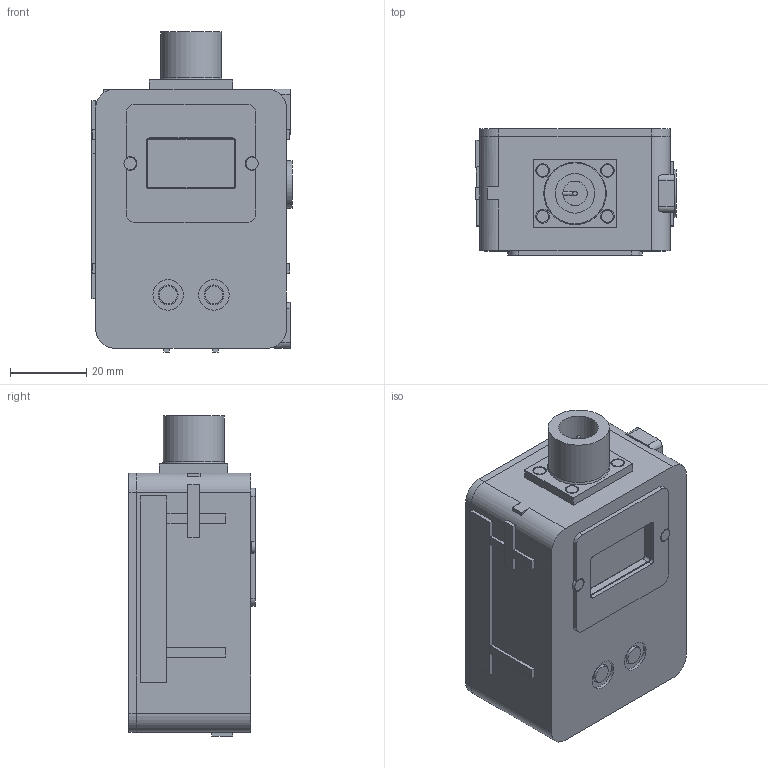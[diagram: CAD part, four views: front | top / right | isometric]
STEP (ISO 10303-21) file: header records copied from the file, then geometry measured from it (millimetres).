
FILE_DESCRIPTION(('Open CASCADE Model'),'2;1');
FILE_NAME('AETHER_WATCH_V1_ASSEMBLED','2026-10-06T17:21:01',('Author'),( 'Open CASCADE'),'Open CASCADE STEP processor 7.9','build123d', 'Unknown');
FILE_SCHEMA(('AUTOMOTIVE_DESIGN { 1 0 10303 214 1 1 1 1 }'));
Length unit declared in the file: millimetre
Products named in the file (41): AETHER_WATCH_V1_ASSEMBLED; main_front_housing; hollow_antenna_housing_placeholder; antenna_m2_screw_1; antenna_m2_screw_2; antenna_m2_screw_3; antenna_m2_screw_4; raised_oled_protective_bezel; bezel_m2_screw_1; bezel_m2_screw_2; oled_i2c_pcb_27x27; oled_active_area_23x13; oled_status_pixel_bar; green_system_led_5mm; red_alert_led_5mm; esp32c3_dev_board_pcb_28x52; esp32c3_radio_module_envelope; esp32c3_mcu_package; board_power_regulator_envelope; usb_c_receptacle_envelope; battery_input_header_envelope; boot_button_envelope; reset_button_envelope; esp_mount_m2_screw_1; esp_mount_m2_screw_2; esp_mount_m2_screw_3; esp_mount_m2_screw_4; lipo_3v7_30x40x6_envelope; 12mm_rear_buzzer_envelope; 6mm_sos_tactile_switch_envelope; sos_switch_actuator; red_sos_button_plunger; antenna_coax_placeholder; battery_positive_lead; battery_negative_lead; oled_signal_ribbon_placeholder; removable_rear_cover; rear_m2_5_screw_1; rear_m2_5_screw_2; rear_m2_5_screw_3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
Assembly tree (40 placements, depth 2):
  AETHER_WATCH_V1_ASSEMBLED
    main_front_housing
    hollow_antenna_housing_placeholder
    antenna_m2_screw_1
    antenna_m2_screw_2
    antenna_m2_screw_3
    antenna_m2_screw_4
    raised_oled_protective_bezel
    bezel_m2_screw_1
    bezel_m2_screw_2
    oled_i2c_pcb_27x27
    oled_active_area_23x13
    oled_status_pixel_bar
    green_system_led_5mm
    red_alert_led_5mm
    esp32c3_dev_board_pcb_28x52
    esp32c3_radio_module_envelope
    esp32c3_mcu_package
    board_power_regulator_envelope
    usb_c_receptacle_envelope
    battery_input_header_envelope
    boot_button_envelope
    reset_button_envelope
    esp_mount_m2_screw_1
    esp_mount_m2_screw_2
    esp_mount_m2_screw_3
    esp_mount_m2_screw_4
    lipo_3v7_30x40x6_envelope
    12mm_rear_buzzer_envelope
    6mm_sos_tactile_switch_envelope
    sos_switch_actuator
    red_sos_button_plunger
    antenna_coax_placeholder
    battery_positive_lead
    battery_negative_lead
    oled_signal_ribbon_placeholder
    removable_rear_cover
    rear_m2_5_screw_1
    rear_m2_5_screw_2
    rear_m2_5_screw_3
    rear_m2_5_screw_4
Bounding box: 52.5 x 33.2 x 84 mm (x, y, z)
Volume: 49839.1 mm3; surface area: 50425 mm2
Topology: 40 solids, 40 shells, 594 faces, 1408 edges, 908 vertices
Faces by surface type: plane 399, cylinder 178, revolution 16, cone 1
Full cylindrical faces by diameter (mm): 0.5 x12, 0.6 x3, 1.1 x3, 1.6 x6, 1.7 x4, 1.8 x10, 2 x7, 2.1 x8, 2.4 x8, 2.6 x1, 2.9 x4, 3.1 x4, 3.2 x3, 3.4 x4, 3.6 x8, 4.4 x2, 4.6 x2, 4.7 x2, 5 x6, 5.2 x2, 5.5 x1, 6 x1, 6.4 x1, 7 x1, 7.6 x1, 8 x2, 10.4 x1, 12 x1, 12.4 x1, 13 x1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
Entity records: 37012 total; most frequent: CARTESIAN_POINT 7513, DIRECTION 5211, LINE 2783, VECTOR 2783, ORIENTED_EDGE 2760, PCURVE 2760, DEFINITIONAL_REPRESENTATION 2760, EDGE_CURVE 1380
